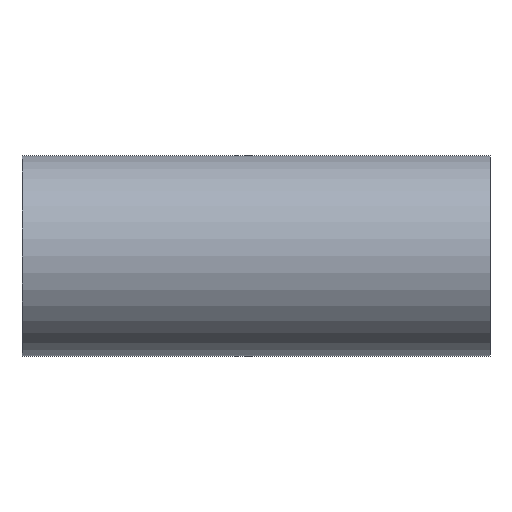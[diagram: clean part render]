
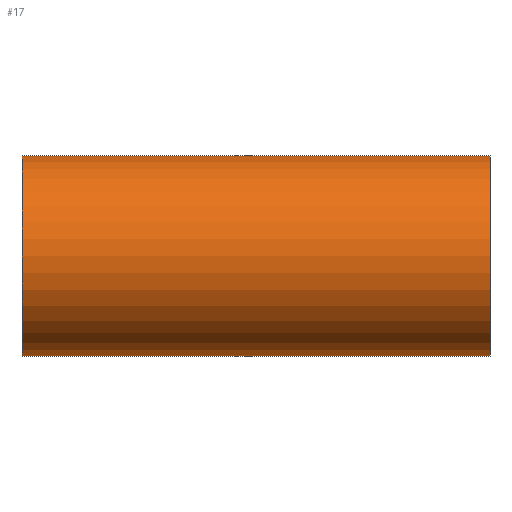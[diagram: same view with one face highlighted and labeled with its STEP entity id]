
A CAD part, left-side view. The second image highlights one B-rep face of the part: STEP entity #17.
In plain terms, the highlighted cylindrical face has radius 1.55 mm (diameter 3.1 mm), a full revolution.
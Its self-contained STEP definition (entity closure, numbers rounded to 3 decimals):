
#17 = ADVANCED_FACE('',(#18),#31,.T.);
#18 = FACE_BOUND('',#19,.T.);
#19 = EDGE_LOOP('',(#20,#54,#77,#104));
#20 = ORIENTED_EDGE('',*,*,#21,.F.);
#21 = EDGE_CURVE('',#22,#22,#24,.T.);
#22 = VERTEX_POINT('',#23);
#23 = CARTESIAN_POINT('',(-9.45,-19.52,-30.));
#24 = SURFACE_CURVE('',#25,(#30,#42),.PCURVE_S1.);
#25 = CIRCLE('',#26,1.55);
#26 = AXIS2_PLACEMENT_3D('',#27,#28,#29);
#27 = CARTESIAN_POINT('',(-11.,-19.52,-30.));
#28 = DIRECTION('',(0.,-1.,0.));
#29 = DIRECTION('',(1.,0.,0.));
#30 = PCURVE('',#31,#36);
#31 = CYLINDRICAL_SURFACE('',#32,1.55);
#32 = AXIS2_PLACEMENT_3D('',#33,#34,#35);
#33 = CARTESIAN_POINT('',(-11.,-12.3,-30.));
#34 = DIRECTION('',(0.,-1.,0.));
#35 = DIRECTION('',(1.,0.,0.));
#36 = DEFINITIONAL_REPRESENTATION('',(#37),#41);
#37 = LINE('',#38,#39);
#38 = CARTESIAN_POINT('',(0.,7.22));
#39 = VECTOR('',#40,1.);
#40 = DIRECTION('',(1.,0.));
#41 = ( GEOMETRIC_REPRESENTATION_CONTEXT(2) 
PARAMETRIC_REPRESENTATION_CONTEXT() REPRESENTATION_CONTEXT('2D SPACE',''
  ) );
#42 = PCURVE('',#43,#48);
#43 = PLANE('',#44);
#44 = AXIS2_PLACEMENT_3D('',#45,#46,#47);
#45 = CARTESIAN_POINT('',(-11.,-19.52,-30.));
#46 = DIRECTION('',(0.,-1.,0.));
#47 = DIRECTION('',(1.,0.,0.));
#48 = DEFINITIONAL_REPRESENTATION('',(#49),#53);
#49 = CIRCLE('',#50,1.55);
#50 = AXIS2_PLACEMENT_2D('',#51,#52);
#51 = CARTESIAN_POINT('',(0.,0.));
#52 = DIRECTION('',(1.,0.));
#53 = ( GEOMETRIC_REPRESENTATION_CONTEXT(2) 
PARAMETRIC_REPRESENTATION_CONTEXT() REPRESENTATION_CONTEXT('2D SPACE',''
  ) );
#54 = ORIENTED_EDGE('',*,*,#55,.F.);
#55 = EDGE_CURVE('',#56,#22,#58,.T.);
#56 = VERTEX_POINT('',#57);
#57 = CARTESIAN_POINT('',(-9.45,-12.3,-30.));
#58 = SEAM_CURVE('',#59,(#63,#70),.PCURVE_S1.);
#59 = LINE('',#60,#61);
#60 = CARTESIAN_POINT('',(-9.45,-12.3,-30.));
#61 = VECTOR('',#62,1.);
#62 = DIRECTION('',(0.,-1.,0.));
#63 = PCURVE('',#31,#64);
#64 = DEFINITIONAL_REPRESENTATION('',(#65),#69);
#65 = LINE('',#66,#67);
#66 = CARTESIAN_POINT('',(6.283,-0.));
#67 = VECTOR('',#68,1.);
#68 = DIRECTION('',(0.,1.));
#69 = ( GEOMETRIC_REPRESENTATION_CONTEXT(2) 
PARAMETRIC_REPRESENTATION_CONTEXT() REPRESENTATION_CONTEXT('2D SPACE',''
  ) );
#70 = PCURVE('',#31,#71);
#71 = DEFINITIONAL_REPRESENTATION('',(#72),#76);
#72 = LINE('',#73,#74);
#73 = CARTESIAN_POINT('',(0.,-0.));
#74 = VECTOR('',#75,1.);
#75 = DIRECTION('',(0.,1.));
#76 = ( GEOMETRIC_REPRESENTATION_CONTEXT(2) 
PARAMETRIC_REPRESENTATION_CONTEXT() REPRESENTATION_CONTEXT('2D SPACE',''
  ) );
#77 = ORIENTED_EDGE('',*,*,#78,.T.);
#78 = EDGE_CURVE('',#56,#56,#79,.T.);
#79 = SURFACE_CURVE('',#80,(#85,#92),.PCURVE_S1.);
#80 = CIRCLE('',#81,1.55);
#81 = AXIS2_PLACEMENT_3D('',#82,#83,#84);
#82 = CARTESIAN_POINT('',(-11.,-12.3,-30.));
#83 = DIRECTION('',(0.,-1.,0.));
#84 = DIRECTION('',(1.,0.,0.));
#85 = PCURVE('',#31,#86);
#86 = DEFINITIONAL_REPRESENTATION('',(#87),#91);
#87 = LINE('',#88,#89);
#88 = CARTESIAN_POINT('',(0.,0.));
#89 = VECTOR('',#90,1.);
#90 = DIRECTION('',(1.,0.));
#91 = ( GEOMETRIC_REPRESENTATION_CONTEXT(2) 
PARAMETRIC_REPRESENTATION_CONTEXT() REPRESENTATION_CONTEXT('2D SPACE',''
  ) );
#92 = PCURVE('',#93,#98);
#93 = PLANE('',#94);
#94 = AXIS2_PLACEMENT_3D('',#95,#96,#97);
#95 = CARTESIAN_POINT('',(-11.,-12.3,-30.));
#96 = DIRECTION('',(0.,-1.,0.));
#97 = DIRECTION('',(1.,0.,0.));
#98 = DEFINITIONAL_REPRESENTATION('',(#99),#103);
#99 = CIRCLE('',#100,1.55);
#100 = AXIS2_PLACEMENT_2D('',#101,#102);
#101 = CARTESIAN_POINT('',(0.,0.));
#102 = DIRECTION('',(1.,0.));
#103 = ( GEOMETRIC_REPRESENTATION_CONTEXT(2) 
PARAMETRIC_REPRESENTATION_CONTEXT() REPRESENTATION_CONTEXT('2D SPACE',''
  ) );
#104 = ORIENTED_EDGE('',*,*,#55,.T.);
